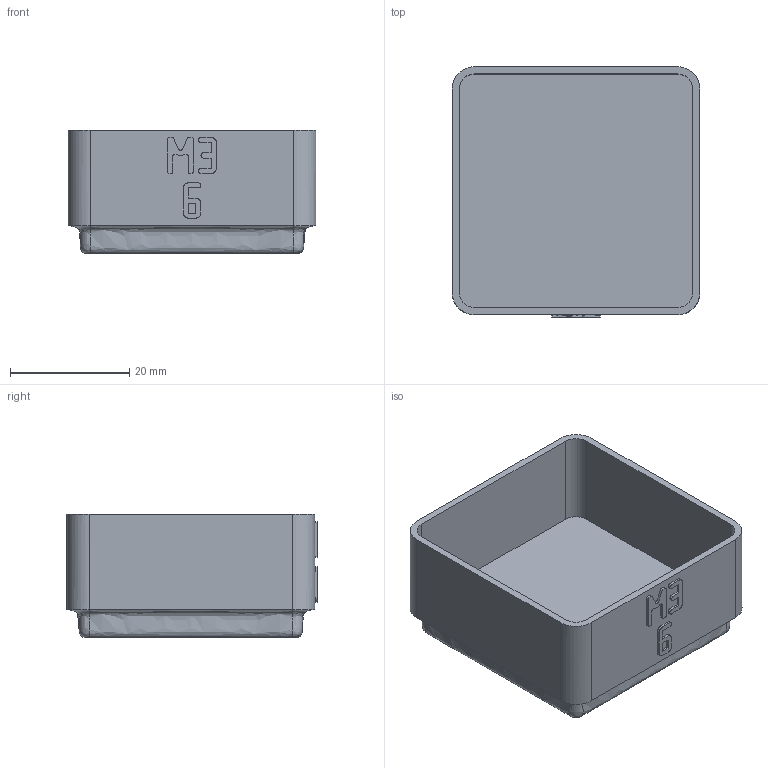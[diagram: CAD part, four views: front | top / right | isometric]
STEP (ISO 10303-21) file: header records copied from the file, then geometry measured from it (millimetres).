
FILE_DESCRIPTION(('Open CASCADE Model'),'2;1');
FILE_NAME('Open CASCADE Shape Model','2026-11-03T15:27:31',('Author'),( 'Open CASCADE'),'Open CASCADE STEP processor 8.0','build123d', 'Unknown');
FILE_SCHEMA(('AUTOMOTIVE_DESIGN { 1 0 10303 214 1 1 1 1 }'));
Length unit declared in the file: millimetre
Products named in the file (1): COMPOUND
Bounding box: 41.5 x 41.9 x 20.75 mm (x, y, z)
Volume: 9640.9 mm3; surface area: 8967.6 mm2
Topology: 1 solids, 1 shells, 368 faces, 1075 edges, 714 vertices
Faces by surface type: plane 352, bspline 8, cylinder 8
Entity records: 25666 total; most frequent: CARTESIAN_POINT 5570, DIRECTION 3229, LINE 2479, VECTOR 2479, ORIENTED_EDGE 2150, PCURVE 2150, DEFINITIONAL_REPRESENTATION 2150, EDGE_CURVE 1075
